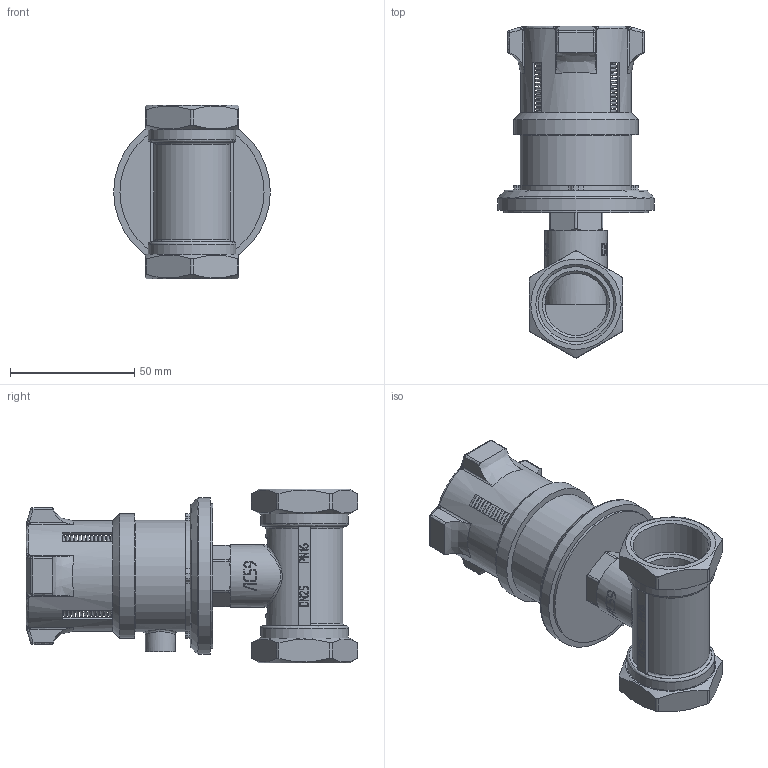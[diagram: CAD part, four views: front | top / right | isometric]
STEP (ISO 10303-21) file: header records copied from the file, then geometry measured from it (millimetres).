
FILE_DESCRIPTION(('STEP AP242'), '1');
FILE_NAME('VBA0000E-T Êëàïàí áàëàíñèðîâî÷íûé àâòîìàòè÷åñêèé DN.ru Äó25 Ðó16', '', ('UNSPECIFIED'), ('UNSPECIFIED'), 'C3D Converter', 'C3D Toolkit', '');
FILE_SCHEMA(('AP242_MANAGED_MODEL_BASED_3D_ENGINEERING_MIM_LF { 1 0 10303 442 1 1 4 }'));
Length unit declared in the file: millimetre
Products named in the file (1): VBA0000E-T
Bounding box: 63 x 133.5 x 70 mm (x, y, z)
Volume: 577.8 mm3; surface area: 54192.6 mm2
Topology: 1 solids, 2 shells, 705 faces, 1895 edges, 1221 vertices
Faces by surface type: plane 261, bspline 179, extrusion 169, cylinder 72, cone 17, torus 7
Full cylindrical faces by diameter (mm): 3 x1, 8.566 x1, 12 x1, 15.381 x2, 25 x3, 30.291 x2, 35.291 x2, 45 x1, 50.18 x1, 58 x1, 63 x1
Entity records: 47372 total; most frequent: CARTESIAN_POINT 26276, ORIENTED_EDGE 3672, DIRECTION 2259, EDGE_CURVE 1836, VERTEX_POINT 1207, VECTOR 947, B_SPLINE_CURVE_WITH_KNOTS 802, EDGE_LOOP 795
